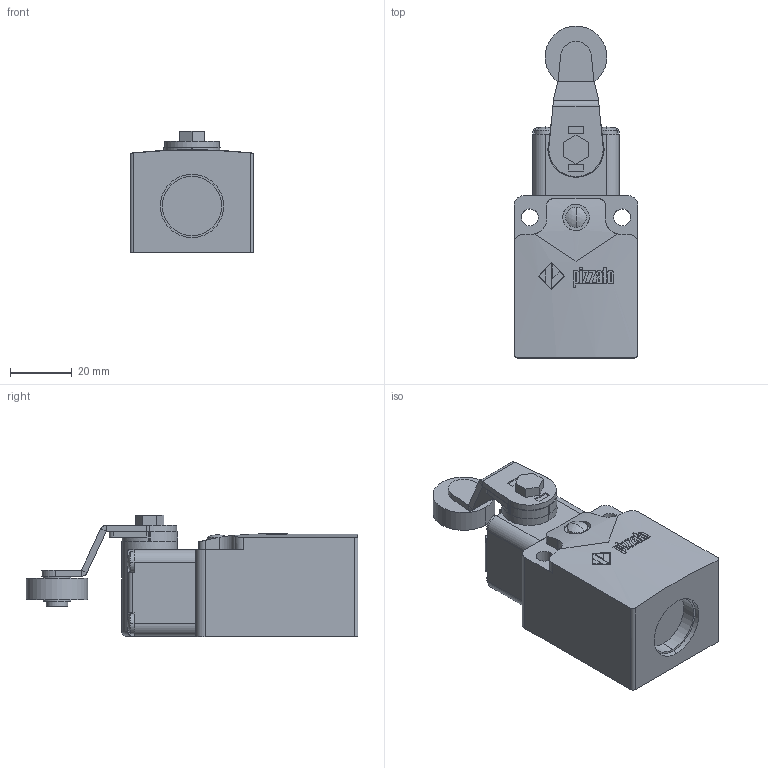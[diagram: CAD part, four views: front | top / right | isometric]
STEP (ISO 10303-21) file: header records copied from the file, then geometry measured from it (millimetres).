
FILE_DESCRIPTION (( 'STEP AP214' ), '1' );
FILE_NAME ('ZF_STEP_FC_x51.step', '2015-05-14T14:13:34', ( 'utente' ), ( 'Microsoft' ), 'SwSTEP 2.0', 'SolidWorks 2014', '' );
FILE_SCHEMA (( 'AUTOMOTIVE_DESIGN' ));
Length unit declared in the file: millimetre
Products named in the file (8): ZF_STEP_VF_T51; ZF_STEP_VF_L51_A10; Pizzato_L51; Vite_leve_pesanti; Pizzato_supporto-leva_serie_pesanti_262; Pizzato_Supporto_T58; Pizzato_Custodia_FC; ZF_STEP_FC_x51
Assembly tree (7 placements, depth 4):
  ZF_STEP_FC_x51
    Pizzato_Custodia_FC
    ZF_STEP_VF_T51
      Pizzato_Supporto_T58
      ZF_STEP_VF_L51_A10
        Pizzato_supporto-leva_serie_pesanti_262
        Vite_leve_pesanti
        Pizzato_L51
Bounding box: 40 x 107.5 x 39.45 mm (x, y, z)
Volume: 87222.2 mm3; surface area: 21594.1 mm2
Topology: 5 solids, 5 shells, 796 faces, 2189 edges, 1453 vertices
Faces by surface type: plane 419, cylinder 264, bspline 101, sphere 10, torus 2
Entity records: 30786 total; most frequent: CARTESIAN_POINT 10450, ORIENTED_EDGE 4378, DIRECTION 3917, EDGE_CURVE 2189, VERTEX_POINT 1453, VECTOR 1347, LINE 1347, AXIS2_PLACEMENT_3D 1285
